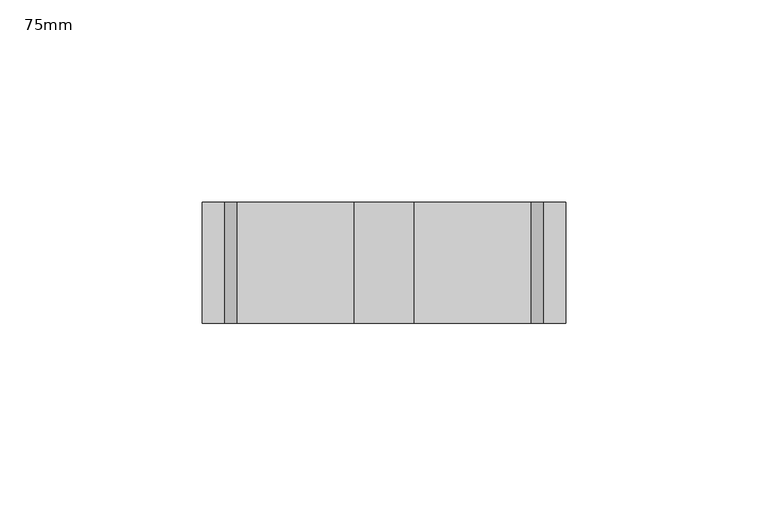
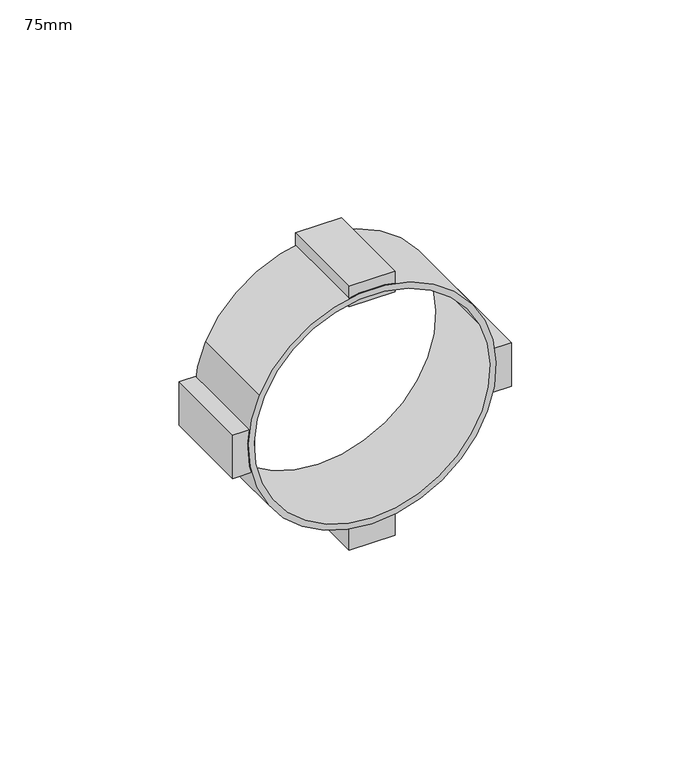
"""IFC4 building model written with IfcOpenShell, lengths in millimetres: pipe fitting geometry, AmancoWavin_Accesoriosdetubería_AS+_Soporte : 75mm."""

from ifc_helpers import new_model, si_unit, point, frame, frame_2d, origin, place, context, project, spatial, polyline, circle_curve, trimmed, segment, composite_curve, outline, extrude, source, transform, mapped, element, save


def pipe_fitting_75mm_203993a5(model_context):
    return source(origin(), model_context, "Body", "SweptSolid", [
        extrude(outline(composite_curve([segment(trimmed(circle_curve(frame_2d((1.5, 0.0)), 40.0), [point((18.0359457, 36.4220057))], [point((18.0359457, -36.4220057))], False, "CARTESIAN"), True, "CONTINUOUS"), segment(trimmed(circle_curve(frame_2d((1.5, 0.0)), 40.0), [point((18.0359457, -36.4220057))], [point((18.0359457, 36.4220057))], False, "CARTESIAN"), True, "CONTINUOUS")], self_intersect=False), holes=[composite_curve([segment(trimmed(circle_curve(frame_2d((1.5, 0.0)), 38.0), [point((17.2091484, -34.6009054))], [point((17.2091484, 34.6009054))], True, "CARTESIAN"), True, "CONTINUOUS"), segment(trimmed(circle_curve(frame_2d((1.5, 0.0)), 38.0), [point((17.2091484, 34.6009054))], [point((17.2091484, -34.6009054))], True, "CARTESIAN"), True, "CONTINUOUS")], self_intersect=False)]), frame((0.0, -15.0, 0.0), z_axis=(0.0, 1.0, 0.0), x_axis=(0.0, 0.0, 1.0)), (0.0, 0.0, 1.0), 30.0),
        extrude(outline(polyline([(45.0, -15.0), (38.0, -15.0), (38.0, 15.0), (45.0, 15.0), (45.0, -15.0)])), frame((0.0, 0.0, -7.3902676), z_axis=(0.0, 0.0, 1.0), x_axis=(1.0, 0.0, 0.0)), (0.0, 0.0, 1.0), 14.7805353),
        extrude(outline(polyline([(-38.0, -15.0), (-45.0, -15.0), (-45.0, 15.0), (-38.0, 15.0), (-38.0, -15.0)])), frame((0.0, 0.0, -7.3902676), z_axis=(0.0, 0.0, 1.0), x_axis=(1.0, 0.0, 0.0)), (0.0, 0.0, 1.0), 14.7805353),
        extrude(outline(polyline([(7.3902676, -15.0), (-7.3902676, -15.0), (-7.3902676, 15.0), (7.3902676, 15.0), (7.3902676, -15.0)])), frame((0.0, 0.0, -45.0), z_axis=(0.0, 0.0, 1.0), x_axis=(1.0, 0.0, 0.0)), (0.0, 0.0, 1.0), 8.3333333),
        extrude(outline(polyline([(7.3902676, -15.0), (-7.3902676, -15.0), (-7.3902676, 15.0), (7.3902676, 15.0), (7.3902676, -15.0)])), frame((0.0, 0.0, 38.0), z_axis=(0.0, 0.0, 1.0), x_axis=(1.0, 0.0, 0.0)), (0.0, 0.0, 1.0), 7.0),
    ])


if __name__ == "__main__":
    model = new_model("IFC4")
    model_context = context("Model", 3, world=origin())
    ifc_project = project(units=[si_unit("LENGTHUNIT", "METRE", prefix="MILLI")], contexts=[model_context])
    site = spatial("IfcSite", under=ifc_project)
    building = spatial("IfcBuilding", under=site)
    placement = place(None, origin())
    pipe_fitting_75mm_shape = pipe_fitting_75mm_203993a5(model_context)
    element("IfcPipeFitting", 1, ObjectType="AmancoWavin_Accesoriosdetubería_AS+_Soporte : 75mm", at=placement, inside=building, context=model_context, shape_type="MappedRepresentation", body=[
        mapped(pipe_fitting_75mm_shape, transform((0.0, 0.0, 0.0), x_axis=(1.0, 0.0, 0.0), y_axis=(0.0, 1.0, 0.0), z_axis=(0.0, 0.0, 1.0))),
    ])
    save(model, "model.ifc")
